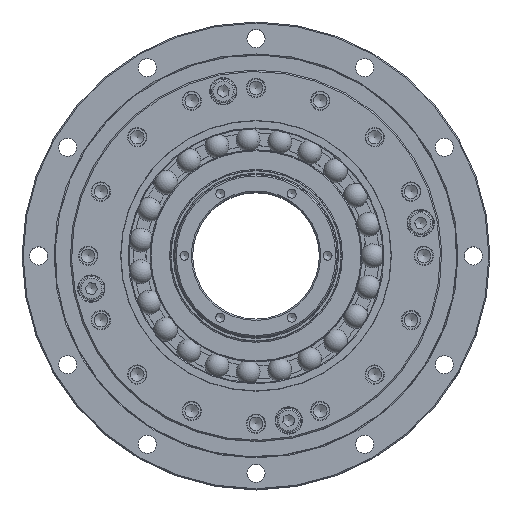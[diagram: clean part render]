
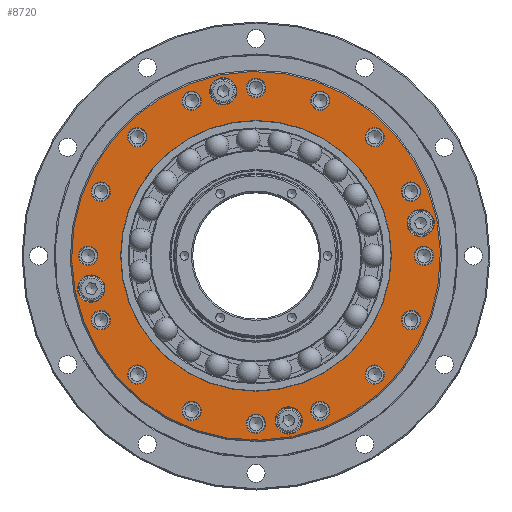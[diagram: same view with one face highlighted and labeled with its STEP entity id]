
A CAD part, top view. The second image highlights one B-rep face of the part: STEP entity #8720.
In plain terms, the highlighted planar face has unit normal (0, 0, 1).
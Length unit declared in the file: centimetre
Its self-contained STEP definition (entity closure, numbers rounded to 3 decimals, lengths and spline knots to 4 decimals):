
#1211=FACE_BOUND($,#2647,.T.);
#1212=FACE_BOUND($,#2648,.T.);
#1213=FACE_BOUND($,#2649,.T.);
#1214=FACE_BOUND($,#2650,.T.);
#1215=FACE_BOUND($,#2651,.T.);
#1216=FACE_BOUND($,#2652,.T.);
#1217=FACE_BOUND($,#2653,.T.);
#1218=FACE_BOUND($,#2654,.T.);
#1219=FACE_BOUND($,#2655,.T.);
#1220=FACE_BOUND($,#2656,.T.);
#1221=FACE_BOUND($,#2657,.T.);
#1222=FACE_BOUND($,#2658,.T.);
#1223=FACE_BOUND($,#2659,.T.);
#1224=FACE_BOUND($,#2660,.T.);
#1225=FACE_BOUND($,#2661,.T.);
#1226=FACE_BOUND($,#2662,.T.);
#1227=FACE_BOUND($,#2663,.T.);
#1228=FACE_BOUND($,#2664,.T.);
#1229=FACE_BOUND($,#2665,.T.);
#1230=FACE_BOUND($,#2666,.T.);
#1231=FACE_BOUND($,#2667,.T.);
#1232=FACE_BOUND($,#2668,.T.);
#2647=EDGE_LOOP($,(#7443));
#2648=EDGE_LOOP($,(#7444));
#2649=EDGE_LOOP($,(#7445));
#2650=EDGE_LOOP($,(#7446));
#2651=EDGE_LOOP($,(#7447));
#2652=EDGE_LOOP($,(#7448));
#2653=EDGE_LOOP($,(#7449));
#2654=EDGE_LOOP($,(#7450));
#2655=EDGE_LOOP($,(#7451));
#2656=EDGE_LOOP($,(#7452));
#2657=EDGE_LOOP($,(#7453));
#2658=EDGE_LOOP($,(#7454));
#2659=EDGE_LOOP($,(#7455));
#2660=EDGE_LOOP($,(#7456));
#2661=EDGE_LOOP($,(#7457));
#2662=EDGE_LOOP($,(#7458));
#2663=EDGE_LOOP($,(#7459));
#2664=EDGE_LOOP($,(#7460));
#2665=EDGE_LOOP($,(#7461));
#2666=EDGE_LOOP($,(#7462));
#2667=EDGE_LOOP($,(#7463));
#2668=EDGE_LOOP($,(#7464));
#3654=CIRCLE($,#9825,6.7);
#3672=CIRCLE($,#9861,0.495);
#3674=CIRCLE($,#9865,0.35);
#3676=CIRCLE($,#9869,0.35);
#3678=CIRCLE($,#9873,0.35);
#3680=CIRCLE($,#9877,0.35);
#3682=CIRCLE($,#9881,0.495);
#3684=CIRCLE($,#9885,0.35);
#3686=CIRCLE($,#9889,0.35);
#3688=CIRCLE($,#9893,0.35);
#3690=CIRCLE($,#9897,0.35);
#3692=CIRCLE($,#9901,0.495);
#3694=CIRCLE($,#9905,0.35);
#3696=CIRCLE($,#9909,0.35);
#3698=CIRCLE($,#9913,0.35);
#3700=CIRCLE($,#9917,0.35);
#3702=CIRCLE($,#9921,0.495);
#3704=CIRCLE($,#9925,0.35);
#3706=CIRCLE($,#9929,0.35);
#3708=CIRCLE($,#9933,0.35);
#3710=CIRCLE($,#9937,4.9189);
#3711=CIRCLE($,#9938,0.35);
#4422=VERTEX_POINT($,#15509);
#4440=VERTEX_POINT($,#15563);
#4442=VERTEX_POINT($,#15569);
#4444=VERTEX_POINT($,#15575);
#4446=VERTEX_POINT($,#15581);
#4448=VERTEX_POINT($,#15587);
#4450=VERTEX_POINT($,#15593);
#4452=VERTEX_POINT($,#15599);
#4454=VERTEX_POINT($,#15605);
#4456=VERTEX_POINT($,#15611);
#4458=VERTEX_POINT($,#15617);
#4460=VERTEX_POINT($,#15623);
#4462=VERTEX_POINT($,#15629);
#4464=VERTEX_POINT($,#15635);
#4466=VERTEX_POINT($,#15641);
#4468=VERTEX_POINT($,#15647);
#4470=VERTEX_POINT($,#15653);
#4472=VERTEX_POINT($,#15659);
#4474=VERTEX_POINT($,#15665);
#4476=VERTEX_POINT($,#15671);
#4478=VERTEX_POINT($,#15677);
#4479=VERTEX_POINT($,#15679);
#5486=EDGE_CURVE($,#4422,#4422,#3654,.T.);
#5504=EDGE_CURVE($,#4440,#4440,#3672,.T.);
#5506=EDGE_CURVE($,#4442,#4442,#3674,.T.);
#5508=EDGE_CURVE($,#4444,#4444,#3676,.T.);
#5510=EDGE_CURVE($,#4446,#4446,#3678,.T.);
#5512=EDGE_CURVE($,#4448,#4448,#3680,.T.);
#5514=EDGE_CURVE($,#4450,#4450,#3682,.T.);
#5516=EDGE_CURVE($,#4452,#4452,#3684,.T.);
#5518=EDGE_CURVE($,#4454,#4454,#3686,.T.);
#5520=EDGE_CURVE($,#4456,#4456,#3688,.T.);
#5522=EDGE_CURVE($,#4458,#4458,#3690,.T.);
#5524=EDGE_CURVE($,#4460,#4460,#3692,.T.);
#5526=EDGE_CURVE($,#4462,#4462,#3694,.T.);
#5528=EDGE_CURVE($,#4464,#4464,#3696,.T.);
#5530=EDGE_CURVE($,#4466,#4466,#3698,.T.);
#5532=EDGE_CURVE($,#4468,#4468,#3700,.T.);
#5534=EDGE_CURVE($,#4470,#4470,#3702,.T.);
#5536=EDGE_CURVE($,#4472,#4472,#3704,.T.);
#5538=EDGE_CURVE($,#4474,#4474,#3706,.T.);
#5540=EDGE_CURVE($,#4476,#4476,#3708,.T.);
#5542=EDGE_CURVE($,#4478,#4478,#3710,.T.);
#5543=EDGE_CURVE($,#4479,#4479,#3711,.T.);
#7443=ORIENTED_EDGE($,*,*,#5542,.T.);
#7444=ORIENTED_EDGE($,*,*,#5540,.F.);
#7445=ORIENTED_EDGE($,*,*,#5536,.F.);
#7446=ORIENTED_EDGE($,*,*,#5532,.F.);
#7447=ORIENTED_EDGE($,*,*,#5528,.F.);
#7448=ORIENTED_EDGE($,*,*,#5524,.F.);
#7449=ORIENTED_EDGE($,*,*,#5520,.F.);
#7450=ORIENTED_EDGE($,*,*,#5516,.F.);
#7451=ORIENTED_EDGE($,*,*,#5512,.F.);
#7452=ORIENTED_EDGE($,*,*,#5508,.F.);
#7453=ORIENTED_EDGE($,*,*,#5504,.F.);
#7454=ORIENTED_EDGE($,*,*,#5486,.F.);
#7455=ORIENTED_EDGE($,*,*,#5506,.F.);
#7456=ORIENTED_EDGE($,*,*,#5510,.F.);
#7457=ORIENTED_EDGE($,*,*,#5514,.F.);
#7458=ORIENTED_EDGE($,*,*,#5518,.F.);
#7459=ORIENTED_EDGE($,*,*,#5522,.F.);
#7460=ORIENTED_EDGE($,*,*,#5526,.F.);
#7461=ORIENTED_EDGE($,*,*,#5530,.F.);
#7462=ORIENTED_EDGE($,*,*,#5534,.F.);
#7463=ORIENTED_EDGE($,*,*,#5538,.F.);
#7464=ORIENTED_EDGE($,*,*,#5543,.F.);
#8240=PLANE($,#9936);
#8720=ADVANCED_FACE($,(#1211,#1212,#1213,#1214,#1215,#1216,#1217,#1218,
#1219,#1220,#1221,#1222,#1223,#1224,#1225,#1226,#1227,#1228,#1229,#1230,
#1231,#1232),#8240,.T.);
#9825=AXIS2_PLACEMENT_3D($,#15510,#12214,#12215);
#9861=AXIS2_PLACEMENT_3D($,#15564,#12286,#12287);
#9865=AXIS2_PLACEMENT_3D($,#15570,#12294,#12295);
#9869=AXIS2_PLACEMENT_3D($,#15576,#12302,#12303);
#9873=AXIS2_PLACEMENT_3D($,#15582,#12310,#12311);
#9877=AXIS2_PLACEMENT_3D($,#15588,#12318,#12319);
#9881=AXIS2_PLACEMENT_3D($,#15594,#12326,#12327);
#9885=AXIS2_PLACEMENT_3D($,#15600,#12334,#12335);
#9889=AXIS2_PLACEMENT_3D($,#15606,#12342,#12343);
#9893=AXIS2_PLACEMENT_3D($,#15612,#12350,#12351);
#9897=AXIS2_PLACEMENT_3D($,#15618,#12358,#12359);
#9901=AXIS2_PLACEMENT_3D($,#15624,#12366,#12367);
#9905=AXIS2_PLACEMENT_3D($,#15630,#12374,#12375);
#9909=AXIS2_PLACEMENT_3D($,#15636,#12382,#12383);
#9913=AXIS2_PLACEMENT_3D($,#15642,#12390,#12391);
#9917=AXIS2_PLACEMENT_3D($,#15648,#12398,#12399);
#9921=AXIS2_PLACEMENT_3D($,#15654,#12406,#12407);
#9925=AXIS2_PLACEMENT_3D($,#15660,#12414,#12415);
#9929=AXIS2_PLACEMENT_3D($,#15666,#12422,#12423);
#9933=AXIS2_PLACEMENT_3D($,#15672,#12430,#12431);
#9936=AXIS2_PLACEMENT_3D($,#15676,#12436,#12437);
#9937=AXIS2_PLACEMENT_3D($,#15678,#12438,#12439);
#9938=AXIS2_PLACEMENT_3D($,#15680,#12440,#12441);
#12214=DIRECTION('center_axis',(0.,0.,-1.));
#12215=DIRECTION('ref_axis',(-0.981,-0.195,0.));
#12286=DIRECTION('center_axis',(0.,0.,1.));
#12287=DIRECTION('ref_axis',(-0.195,0.981,0.));
#12294=DIRECTION('center_axis',(0.,0.,1.));
#12295=DIRECTION('ref_axis',(-0.195,0.981,0.));
#12302=DIRECTION('center_axis',(0.,0.,1.));
#12303=DIRECTION('ref_axis',(-0.195,0.981,0.));
#12310=DIRECTION('center_axis',(0.,0.,1.));
#12311=DIRECTION('ref_axis',(-0.195,0.981,0.));
#12318=DIRECTION('center_axis',(0.,0.,1.));
#12319=DIRECTION('ref_axis',(-0.195,0.981,0.));
#12326=DIRECTION('center_axis',(0.,0.,1.));
#12327=DIRECTION('ref_axis',(-0.195,0.981,0.));
#12334=DIRECTION('center_axis',(0.,0.,1.));
#12335=DIRECTION('ref_axis',(-0.195,0.981,0.));
#12342=DIRECTION('center_axis',(0.,0.,1.));
#12343=DIRECTION('ref_axis',(-0.195,0.981,0.));
#12350=DIRECTION('center_axis',(0.,0.,1.));
#12351=DIRECTION('ref_axis',(-0.195,0.981,0.));
#12358=DIRECTION('center_axis',(0.,0.,1.));
#12359=DIRECTION('ref_axis',(-0.195,0.981,0.));
#12366=DIRECTION('center_axis',(0.,0.,1.));
#12367=DIRECTION('ref_axis',(-0.195,0.981,0.));
#12374=DIRECTION('center_axis',(0.,0.,1.));
#12375=DIRECTION('ref_axis',(-0.195,0.981,0.));
#12382=DIRECTION('center_axis',(0.,0.,1.));
#12383=DIRECTION('ref_axis',(-0.195,0.981,0.));
#12390=DIRECTION('center_axis',(0.,0.,1.));
#12391=DIRECTION('ref_axis',(-0.195,0.981,0.));
#12398=DIRECTION('center_axis',(0.,0.,1.));
#12399=DIRECTION('ref_axis',(-0.195,0.981,0.));
#12406=DIRECTION('center_axis',(0.,0.,1.));
#12407=DIRECTION('ref_axis',(-0.195,0.981,0.));
#12414=DIRECTION('center_axis',(0.,0.,1.));
#12415=DIRECTION('ref_axis',(-0.195,0.981,0.));
#12422=DIRECTION('center_axis',(0.,0.,1.));
#12423=DIRECTION('ref_axis',(-0.195,0.981,0.));
#12430=DIRECTION('center_axis',(0.,0.,1.));
#12431=DIRECTION('ref_axis',(-0.195,0.981,0.));
#12436=DIRECTION('center_axis',(0.,0.,1.));
#12437=DIRECTION('ref_axis',(0.195,-0.981,0.));
#12438=DIRECTION('center_axis',(0.,0.,
-1.));
#12439=DIRECTION('ref_axis',(1.,0.,0.));
#12440=DIRECTION('center_axis',(0.,0.,1.));
#12441=DIRECTION('ref_axis',(-0.195,0.981,0.));
#15509=CARTESIAN_POINT('',(6.5713,1.3071,4.55));
#15510=CARTESIAN_POINT('Origin',(0.,0.,4.55));
#15563=CARTESIAN_POINT('',(-5.8862,-1.6755,4.55));
#15564=CARTESIAN_POINT('Origin',(-5.9828,-1.1901,4.55));
#15569=CARTESIAN_POINT('',(-5.5674,-2.6776,4.55));
#15570=CARTESIAN_POINT('Origin',(-5.6357,-2.3344,4.55));
#15575=CARTESIAN_POINT('',(-4.2451,-4.6566,4.55));
#15576=CARTESIAN_POINT('Origin',(-4.3134,-4.3134,4.55));
#15581=CARTESIAN_POINT('',(-2.2661,-5.9789,4.55));
#15582=CARTESIAN_POINT('Origin',(-2.3344,-5.6357,4.55));
#15587=CARTESIAN_POINT('',(0.0683,-6.4433,4.55));
#15588=CARTESIAN_POINT('Origin',(0.,-6.1,4.55));
#15593=CARTESIAN_POINT('',(1.2866,-6.4683,4.55));
#15594=CARTESIAN_POINT('Origin',(1.1901,-5.9828,4.55));
#15599=CARTESIAN_POINT('',(2.4027,-5.9789,4.55));
#15600=CARTESIAN_POINT('Origin',(2.3344,-5.6357,4.55));
#15605=CARTESIAN_POINT('',(4.3816,-4.6566,4.55));
#15606=CARTESIAN_POINT('Origin',(4.3134,-4.3134,4.55));
#15611=CARTESIAN_POINT('',(5.7039,-2.6776,4.55));
#15612=CARTESIAN_POINT('Origin',(5.6357,-2.3344,4.55));
#15617=CARTESIAN_POINT('',(6.1683,-0.3433,4.55));
#15618=CARTESIAN_POINT('Origin',(6.1,0.,4.55));
#15623=CARTESIAN_POINT('',(6.0794,0.7046,4.55));
#15624=CARTESIAN_POINT('Origin',(5.9828,1.1901,4.55));
#15629=CARTESIAN_POINT('',(5.7039,1.9911,4.55));
#15630=CARTESIAN_POINT('Origin',(5.6357,2.3344,4.55));
#15635=CARTESIAN_POINT('',(4.3816,3.9701,4.55));
#15636=CARTESIAN_POINT('Origin',(4.3134,4.3134,4.55));
#15641=CARTESIAN_POINT('',(2.4027,5.2924,4.55));
#15642=CARTESIAN_POINT('Origin',(2.3344,5.6357,4.55));
#15647=CARTESIAN_POINT('',(0.0683,5.7567,4.55));
#15648=CARTESIAN_POINT('Origin',(0.,6.1,4.55));
#15653=CARTESIAN_POINT('',(-1.0935,5.4973,4.55));
#15654=CARTESIAN_POINT('Origin',(-1.1901,5.9828,4.55));
#15659=CARTESIAN_POINT('',(-2.2661,5.2924,4.55));
#15660=CARTESIAN_POINT('Origin',(-2.3344,5.6357,4.55));
#15665=CARTESIAN_POINT('',(-4.2451,3.9701,4.55));
#15666=CARTESIAN_POINT('Origin',(-4.3134,4.3134,4.55));
#15671=CARTESIAN_POINT('',(-5.5674,1.9911,4.55));
#15672=CARTESIAN_POINT('Origin',(-5.6357,2.3344,4.55));
#15676=CARTESIAN_POINT('Origin',(6.6301,1.3188,4.55));
#15677=CARTESIAN_POINT('',(0.,4.9189,4.55));
#15678=CARTESIAN_POINT('Origin',(0.,0.,
4.55));
#15679=CARTESIAN_POINT('',(-6.0317,-0.3433,4.55));
#15680=CARTESIAN_POINT('Origin',(-6.1,0.,4.55));
